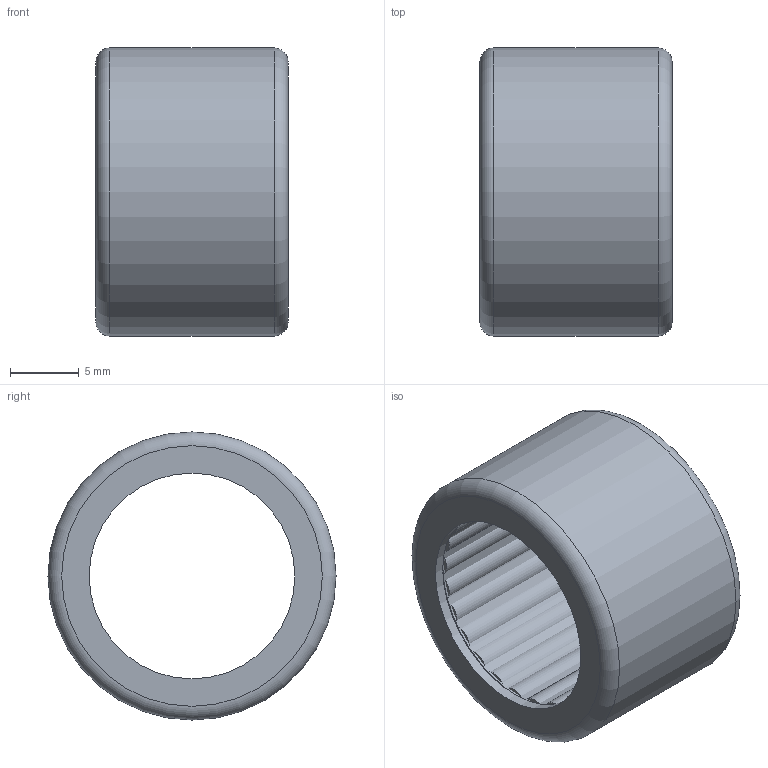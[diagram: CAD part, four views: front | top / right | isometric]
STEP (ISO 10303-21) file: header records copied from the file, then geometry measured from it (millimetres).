
FILE_DESCRIPTION(/* description */ (''),/* implementation_level */ '2;1');
FILE_NAME(/* name */ 'C:\Users\OUREHANEKD\Desktop\Ihlove loziska\HK-RS\HK-RS--\HK1514-RS.stp',/* time_stamp */ '2016-10-07T10:37:07+02:00',/* author */ ('OUREHANEKD'),/* organization */ (''),/* preprocessor_version */ 'ST-DEVELOPER v15.6',/* originating_system */ 'Autodesk Inventor 2015',/* authorisation */ '');
FILE_SCHEMA (('AUTOMOTIVE_DESIGN { 1 0 10303 214 3 1 1 }'));
Length unit declared in the file: millimetre
Products named in the file (4): HK1514-RS-01; HK1514-RS-kl; HK1514-RS-ihla; HK1514-RS
Assembly tree (27 placements, depth 2):
  HK1514-RS
    HK1514-RS-01
    HK1514-RS-kl
    HK1514-RS-ihla  x25
Bounding box: 14 x 21 x 21 mm (x, y, z)
Volume: 3045.6 mm3; surface area: 5787.8 mm2
Topology: 27 solids, 27 shells, 90 faces, 99 edges, 65 vertices
Faces by surface type: plane 56, cylinder 31, torus 2, cone 1
Full cylindrical faces by diameter (mm): 2.244 x25, 15 x2, 15.5 x1, 18.988 x1, 19.488 x1, 21 x1
Entity records: 640 total; most frequent: DIRECTION 132, CARTESIAN_POINT 83, AXIS2_PLACEMENT_3D 66, EDGE_LOOP 34, ORIENTED_EDGE 34, PRODUCT_DEFINITION_SHAPE 31, ITEM_DEFINED_TRANSFORMATION 27, CONTEXT_DEPENDENT_SHAPE_REPRESENTATION 27
